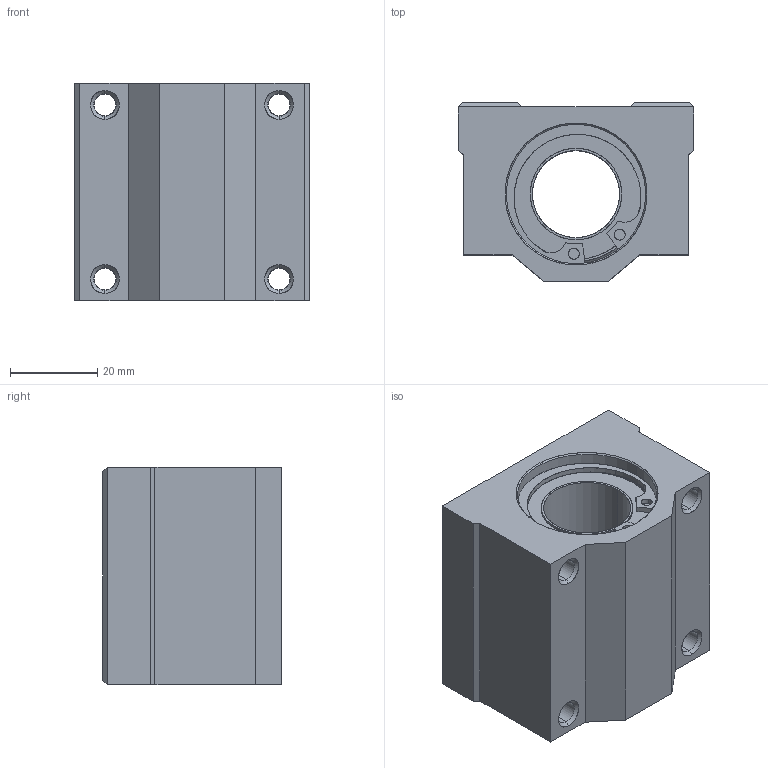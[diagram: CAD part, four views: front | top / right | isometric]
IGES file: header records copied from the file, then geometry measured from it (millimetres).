
Start section: SolidWorks IGES file using analytic representation for surfaces
Global section: file name: D:\SOLIDWORKS PROEKTI\freelance cnc cat\VTORA SERIJA\SC-UU\SC20UU.IGS; native system: SolidWorks 2016; preprocessor: SolidWorks 2016; author: User; date: 170805.191511; units: millimetre
Bounding box: 54 x 41 x 50 mm (x, y, z)
Surface area: 28419.8 mm2 (no closed solid volume)
Topology: 0 solids, 0 shells, 332 faces, 8743 edges, 10459 vertices
Faces by surface type: bspline 215, revolution 117
